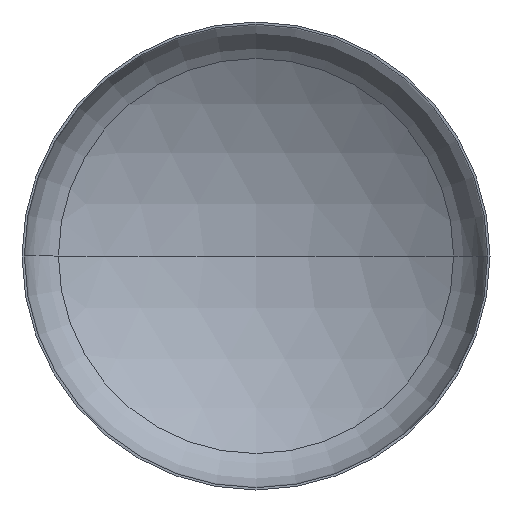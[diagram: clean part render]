
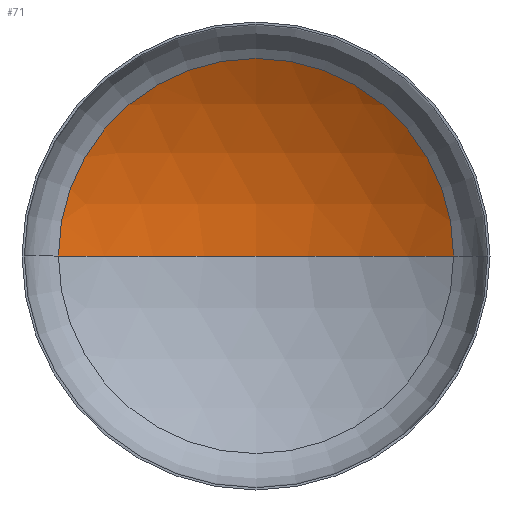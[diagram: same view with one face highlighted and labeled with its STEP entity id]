
A CAD part, front view. The second image highlights one B-rep face of the part: STEP entity #71.
In plain terms, the highlighted spherical face has radius 1920 mm.
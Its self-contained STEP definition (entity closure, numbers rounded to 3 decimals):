
#1 = DIRECTION ( 'NONE',  ( 1., 0., 0. ) ) ;
#10 = CARTESIAN_POINT ( 'NONE',  ( -1013.265, 354.28, 0. ) ) ;
#34 = AXIS2_PLACEMENT_3D ( 'NONE', #275, #50, #1 ) ;
#35 = AXIS2_PLACEMENT_3D ( 'NONE', #202, #266, #296 ) ;
#37 = AXIS2_PLACEMENT_3D ( 'NONE', #177, #173, #174 ) ;
#39 = AXIS2_PLACEMENT_3D ( 'NONE', #138, #155, #158 ) ;
#50 = DIRECTION ( 'NONE',  ( 0., 0., 1. ) ) ;
#66 = EDGE_CURVE ( 'NONE', #200, #121, #321, .T. ) ;
#68 = SPHERICAL_SURFACE ( 'NONE', #35, 1920. ) ;
#70 = EDGE_LOOP ( 'NONE', ( #390, #78, #205 ) ) ;
#71 = ADVANCED_FACE ( 'NONE', ( #262 ), #68, .F. ) ;
#78 = ORIENTED_EDGE ( 'NONE', *, *, #79, .T. ) ;
#79 = EDGE_CURVE ( 'NONE', #112, #200, #170, .T. ) ;
#88 = EDGE_CURVE ( 'NONE', #112, #121, #157, .T. ) ;
#112 = VERTEX_POINT ( 'NONE', #400 ) ;
#121 = VERTEX_POINT ( 'NONE', #10 ) ;
#138 = CARTESIAN_POINT ( 'NONE',  ( 0., 354.28, 0. ) ) ;
#139 = CARTESIAN_POINT ( 'NONE',  ( 1013.265, 354.28, 0. ) ) ;
#155 = DIRECTION ( 'NONE',  ( 0., -1., 0. ) ) ;
#157 = CIRCLE ( 'NONE', #34, 1920. ) ;
#158 = DIRECTION ( 'NONE',  ( 1., 0., 0. ) ) ;
#170 = CIRCLE ( 'NONE', #37, 1920. ) ;
#173 = DIRECTION ( 'NONE',  ( 0., 0., -1. ) ) ;
#174 = DIRECTION ( 'NONE',  ( -1., 0., 0. ) ) ;
#177 = CARTESIAN_POINT ( 'NONE',  ( 0., -1276.577, 0. ) ) ;
#200 = VERTEX_POINT ( 'NONE', #139 ) ;
#202 = CARTESIAN_POINT ( 'NONE',  ( 0., -1276.577, 0. ) ) ;
#205 = ORIENTED_EDGE ( 'NONE', *, *, #66, .T. ) ;
#262 = FACE_OUTER_BOUND ( 'NONE', #70, .T. ) ;
#266 = DIRECTION ( 'NONE',  ( 0., 0., -1. ) ) ;
#275 = CARTESIAN_POINT ( 'NONE',  ( 0., -1276.577, 0. ) ) ;
#296 = DIRECTION ( 'NONE',  ( -1., 0., 0. ) ) ;
#321 = CIRCLE ( 'NONE', #39, 1013.265 ) ;
#390 = ORIENTED_EDGE ( 'NONE', *, *, #88, .F. ) ;
#400 = CARTESIAN_POINT ( 'NONE',  ( 0., 643.423, 0. ) ) ;
